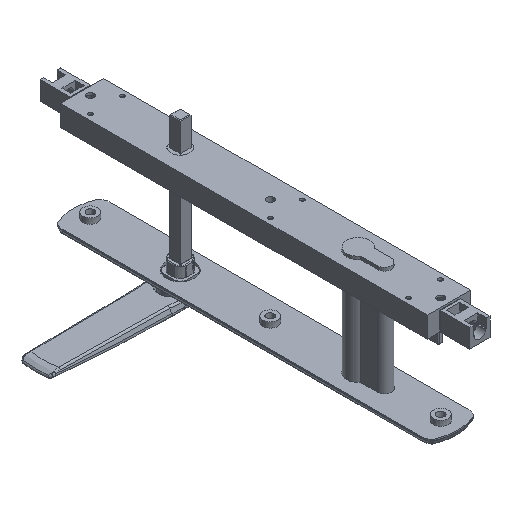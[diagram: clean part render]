
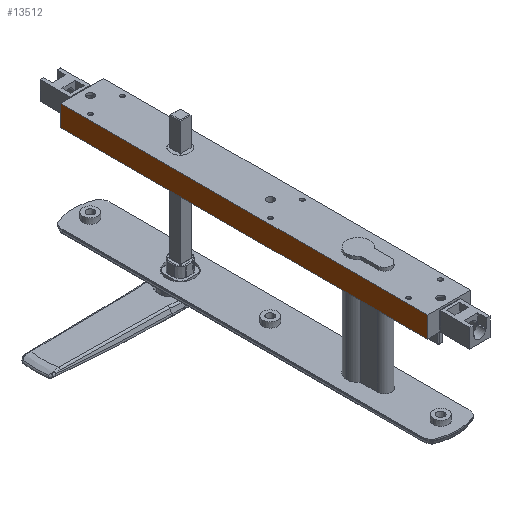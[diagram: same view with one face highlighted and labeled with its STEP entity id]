
A CAD part, isometric view. The second image highlights one B-rep face of the part: STEP entity #13512.
In plain terms, the highlighted planar face has unit normal (-1, 0, 0).
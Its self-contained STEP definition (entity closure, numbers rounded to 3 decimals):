
#4 = CARTESIAN_POINT ( 'NONE',  ( -16., 72.75, -7.75 ) ) ;
#2988 = ORIENTED_EDGE ( 'NONE', *, *, #11901, .T. ) ;
#3702 = PLANE ( 'NONE',  #5194 ) ;
#5194 = AXIS2_PLACEMENT_3D ( 'NONE', #17557, #14968, #24594 ) ;
#6544 = CARTESIAN_POINT ( 'NONE',  ( -16., -199.25, 7.75 ) ) ;
#7370 = ORIENTED_EDGE ( 'NONE', *, *, #25076, .T. ) ;
#7905 = CARTESIAN_POINT ( 'NONE',  ( -16., -199.25, 7.75 ) ) ;
#8853 = VERTEX_POINT ( 'NONE', #23494 ) ;
#9623 = LINE ( 'NONE', #4, #14430 ) ;
#10343 = CARTESIAN_POINT ( 'NONE',  ( -16., 72.75, 7.75 ) ) ;
#10506 = LINE ( 'NONE', #10343, #17745 ) ;
#10971 = CARTESIAN_POINT ( 'NONE',  ( -16., 72.75, -7.75 ) ) ;
#11459 = DIRECTION ( 'NONE',  ( 0., -1., 0. ) ) ;
#11901 = EDGE_CURVE ( 'NONE', #8853, #23833, #10506, .T. ) ;
#12565 = VECTOR ( 'NONE', #21390, 1000. ) ;
#13512 = ADVANCED_FACE ( 'NONE', ( #19704 ), #3702, .F. ) ;
#14430 = VECTOR ( 'NONE', #11459, 1000. ) ;
#14968 = DIRECTION ( 'NONE',  ( 1., 0., 0. ) ) ;
#15066 = DIRECTION ( 'NONE',  ( 0., 0., -1. ) ) ;
#15715 = VERTEX_POINT ( 'NONE', #7905 ) ;
#17065 = EDGE_CURVE ( 'NONE', #15715, #27838, #27419, .T. ) ;
#17557 = CARTESIAN_POINT ( 'NONE',  ( -16., 72.75, 7.75 ) ) ;
#17745 = VECTOR ( 'NONE', #15066, 1000. ) ;
#18227 = EDGE_LOOP ( 'NONE', ( #7370, #21428, #21999, #2988 ) ) ;
#19704 = FACE_OUTER_BOUND ( 'NONE', #18227, .T. ) ;
#20243 = DIRECTION ( 'NONE',  ( 0., 0., -1. ) ) ;
#21390 = DIRECTION ( 'NONE',  ( 0., -1., 0. ) ) ;
#21428 = ORIENTED_EDGE ( 'NONE', *, *, #17065, .F. ) ;
#21999 = ORIENTED_EDGE ( 'NONE', *, *, #29327, .F. ) ;
#23494 = CARTESIAN_POINT ( 'NONE',  ( -16., 72.75, 7.75 ) ) ;
#23538 = CARTESIAN_POINT ( 'NONE',  ( -16., -199.25, -7.75 ) ) ;
#23669 = CARTESIAN_POINT ( 'NONE',  ( -16., 72.75, 7.75 ) ) ;
#23833 = VERTEX_POINT ( 'NONE', #10971 ) ;
#24594 = DIRECTION ( 'NONE',  ( 0., 1., 0. ) ) ;
#25076 = EDGE_CURVE ( 'NONE', #23833, #27838, #9623, .T. ) ;
#26270 = LINE ( 'NONE', #23669, #12565 ) ;
#27419 = LINE ( 'NONE', #6544, #29322 ) ;
#27838 = VERTEX_POINT ( 'NONE', #23538 ) ;
#29322 = VECTOR ( 'NONE', #20243, 1000. ) ;
#29327 = EDGE_CURVE ( 'NONE', #8853, #15715, #26270, .T. ) ;
